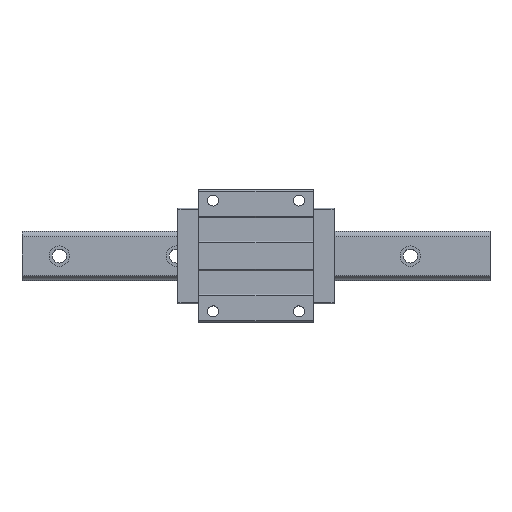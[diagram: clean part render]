
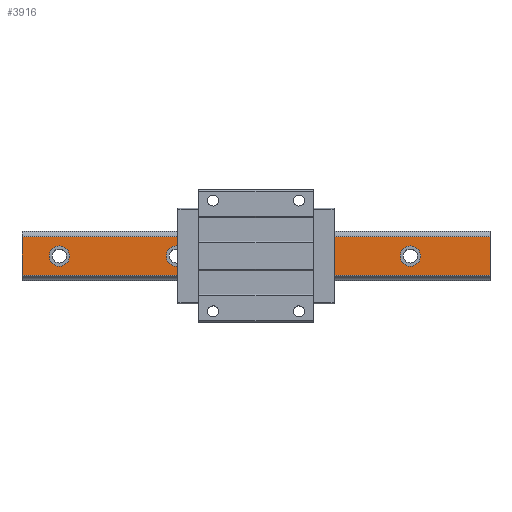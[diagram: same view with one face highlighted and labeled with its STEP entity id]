
A CAD part, top view. The second image highlights one B-rep face of the part: STEP entity #3916.
In plain terms, the highlighted planar face has unit normal (0, 0, 1).
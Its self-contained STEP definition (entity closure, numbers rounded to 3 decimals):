
#88 = CARTESIAN_POINT ( 'NONE',  ( 300., -24.864, 53. ) ) ;
#101 = CARTESIAN_POINT ( 'NONE',  ( -265., 0., 53. ) ) ;
#110 = CIRCLE ( 'NONE', #233, 13. ) ;
#118 = VERTEX_POINT ( 'NONE', #1973 ) ;
#221 = ORIENTED_EDGE ( 'NONE', *, *, #7140, .F. ) ;
#233 = AXIS2_PLACEMENT_3D ( 'NONE', #4876, #3096, #2549 ) ;
#301 = CARTESIAN_POINT ( 'NONE',  ( 198., 0., 53. ) ) ;
#358 = DIRECTION ( 'NONE',  ( 1., 0., 0. ) ) ;
#406 = CARTESIAN_POINT ( 'NONE',  ( -300., -24.864, 53. ) ) ;
#424 = VERTEX_POINT ( 'NONE', #5910 ) ;
#647 = FACE_BOUND ( 'NONE', #1409, .T. ) ;
#651 = CARTESIAN_POINT ( 'NONE',  ( 300., -24.864, 53. ) ) ;
#899 = EDGE_CURVE ( 'NONE', #424, #1170, #3018, .T. ) ;
#990 = DIRECTION ( 'NONE',  ( 1., 0., 0. ) ) ;
#1010 = EDGE_CURVE ( 'NONE', #7152, #3436, #1140, .T. ) ;
#1057 = DIRECTION ( 'NONE',  ( 1., 0., 0. ) ) ;
#1140 = CIRCLE ( 'NONE', #4445, 13. ) ;
#1170 = VERTEX_POINT ( 'NONE', #5200 ) ;
#1172 = PLANE ( 'NONE',  #3901 ) ;
#1217 = DIRECTION ( 'NONE',  ( 0., 0., 1. ) ) ;
#1246 = FACE_BOUND ( 'NONE', #6145, .T. ) ;
#1278 = VECTOR ( 'NONE', #5402, 1000. ) ;
#1361 = ORIENTED_EDGE ( 'NONE', *, *, #4395, .T. ) ;
#1409 = EDGE_LOOP ( 'NONE', ( #6826, #2504 ) ) ;
#1435 = DIRECTION ( 'NONE',  ( 1., 0., 0. ) ) ;
#1472 = DIRECTION ( 'NONE',  ( 0., 0., 1. ) ) ;
#1549 = CARTESIAN_POINT ( 'NONE',  ( -102., 0., 53. ) ) ;
#1625 = DIRECTION ( 'NONE',  ( 0., 0., 1. ) ) ;
#1647 = CARTESIAN_POINT ( 'NONE',  ( 300., 24.864, 53. ) ) ;
#1700 = ORIENTED_EDGE ( 'NONE', *, *, #6955, .F. ) ;
#1831 = ORIENTED_EDGE ( 'NONE', *, *, #899, .F. ) ;
#1973 = CARTESIAN_POINT ( 'NONE',  ( -300., 24.864, 53. ) ) ;
#2031 = CARTESIAN_POINT ( 'NONE',  ( -300., -24.864, 53. ) ) ;
#2070 = EDGE_CURVE ( 'NONE', #118, #6266, #7049, .T. ) ;
#2245 = DIRECTION ( 'NONE',  ( 0., 0., -1. ) ) ;
#2383 = CIRCLE ( 'NONE', #6497, 13. ) ;
#2476 = DIRECTION ( 'NONE',  ( 1., 0., 0. ) ) ;
#2504 = ORIENTED_EDGE ( 'NONE', *, *, #1010, .F. ) ;
#2549 = DIRECTION ( 'NONE',  ( 1., 0., 0. ) ) ;
#2550 = AXIS2_PLACEMENT_3D ( 'NONE', #3547, #5870, #2476 ) ;
#2607 = CARTESIAN_POINT ( 'NONE',  ( -115., 0., 53. ) ) ;
#2729 = ORIENTED_EDGE ( 'NONE', *, *, #4627, .F. ) ;
#2740 = VERTEX_POINT ( 'NONE', #3418 ) ;
#2754 = VECTOR ( 'NONE', #6943, 1000. ) ;
#2957 = AXIS2_PLACEMENT_3D ( 'NONE', #4312, #7190, #990 ) ;
#3018 = CIRCLE ( 'NONE', #2550, 13. ) ;
#3066 = CIRCLE ( 'NONE', #2957, 13. ) ;
#3070 = VECTOR ( 'NONE', #7265, 1000. ) ;
#3096 = DIRECTION ( 'NONE',  ( 0., 0., 1. ) ) ;
#3155 = CARTESIAN_POINT ( 'NONE',  ( 300., -24.864, 53. ) ) ;
#3299 = EDGE_CURVE ( 'NONE', #4394, #6560, #110, .T. ) ;
#3329 = CIRCLE ( 'NONE', #3920, 13. ) ;
#3418 = CARTESIAN_POINT ( 'NONE',  ( 211., 0., 53. ) ) ;
#3436 = VERTEX_POINT ( 'NONE', #6677 ) ;
#3489 = CARTESIAN_POINT ( 'NONE',  ( -239., 0., 53. ) ) ;
#3498 = EDGE_LOOP ( 'NONE', ( #6025, #5211 ) ) ;
#3524 = DIRECTION ( 'NONE',  ( 0., -1., 0. ) ) ;
#3547 = CARTESIAN_POINT ( 'NONE',  ( 48., 0., 53. ) ) ;
#3665 = CIRCLE ( 'NONE', #5672, 13. ) ;
#3724 = CARTESIAN_POINT ( 'NONE',  ( -102., 0., 53. ) ) ;
#3773 = DIRECTION ( 'NONE',  ( 0., 0., 1. ) ) ;
#3775 = EDGE_CURVE ( 'NONE', #2740, #6150, #3066, .T. ) ;
#3901 = AXIS2_PLACEMENT_3D ( 'NONE', #88, #2245, #3945 ) ;
#3916 = ADVANCED_FACE ( 'NONE', ( #5638, #647, #1246, #3981, #5191 ), #1172, .F. ) ;
#3920 = AXIS2_PLACEMENT_3D ( 'NONE', #4059, #1217, #5715 ) ;
#3945 = DIRECTION ( 'NONE',  ( 0., -1., 0. ) ) ;
#3981 = FACE_BOUND ( 'NONE', #6891, .T. ) ;
#4059 = CARTESIAN_POINT ( 'NONE',  ( 48., 0., 53. ) ) ;
#4138 = ORIENTED_EDGE ( 'NONE', *, *, #2070, .T. ) ;
#4242 = EDGE_CURVE ( 'NONE', #6560, #4394, #3665, .T. ) ;
#4312 = CARTESIAN_POINT ( 'NONE',  ( 198., 0., 53. ) ) ;
#4394 = VERTEX_POINT ( 'NONE', #3489 ) ;
#4395 = EDGE_CURVE ( 'NONE', #6727, #118, #5740, .T. ) ;
#4445 = AXIS2_PLACEMENT_3D ( 'NONE', #3724, #1625, #358 ) ;
#4566 = EDGE_CURVE ( 'NONE', #6727, #5858, #6325, .T. ) ;
#4627 = EDGE_CURVE ( 'NONE', #6150, #2740, #2383, .T. ) ;
#4673 = EDGE_LOOP ( 'NONE', ( #4138, #221, #5214, #1361 ) ) ;
#4859 = CIRCLE ( 'NONE', #6391, 13. ) ;
#4876 = CARTESIAN_POINT ( 'NONE',  ( -252., 0., 53. ) ) ;
#5191 = FACE_OUTER_BOUND ( 'NONE', #4673, .T. ) ;
#5200 = CARTESIAN_POINT ( 'NONE',  ( 61., 0., 53. ) ) ;
#5211 = ORIENTED_EDGE ( 'NONE', *, *, #4242, .F. ) ;
#5214 = ORIENTED_EDGE ( 'NONE', *, *, #4566, .F. ) ;
#5290 = ORIENTED_EDGE ( 'NONE', *, *, #3775, .F. ) ;
#5357 = DIRECTION ( 'NONE',  ( 1., 0., 0. ) ) ;
#5402 = DIRECTION ( 'NONE',  ( -1., 0., 0. ) ) ;
#5440 = CARTESIAN_POINT ( 'NONE',  ( -252., 0., 53. ) ) ;
#5638 = FACE_BOUND ( 'NONE', #3498, .T. ) ;
#5672 = AXIS2_PLACEMENT_3D ( 'NONE', #5440, #5956, #1057 ) ;
#5715 = DIRECTION ( 'NONE',  ( 1., 0., 0. ) ) ;
#5740 = LINE ( 'NONE', #1647, #3070 ) ;
#5858 = VERTEX_POINT ( 'NONE', #651 ) ;
#5870 = DIRECTION ( 'NONE',  ( 0., 0., 1. ) ) ;
#5910 = CARTESIAN_POINT ( 'NONE',  ( 35., 0., 53. ) ) ;
#5956 = DIRECTION ( 'NONE',  ( 0., 0., 1. ) ) ;
#5959 = LINE ( 'NONE', #3155, #1278 ) ;
#6025 = ORIENTED_EDGE ( 'NONE', *, *, #3299, .F. ) ;
#6145 = EDGE_LOOP ( 'NONE', ( #1700, #1831 ) ) ;
#6150 = VERTEX_POINT ( 'NONE', #6319 ) ;
#6266 = VERTEX_POINT ( 'NONE', #406 ) ;
#6319 = CARTESIAN_POINT ( 'NONE',  ( 185., 0., 53. ) ) ;
#6325 = LINE ( 'NONE', #6431, #6969 ) ;
#6391 = AXIS2_PLACEMENT_3D ( 'NONE', #1549, #1472, #1435 ) ;
#6431 = CARTESIAN_POINT ( 'NONE',  ( 300., -24.864, 53. ) ) ;
#6497 = AXIS2_PLACEMENT_3D ( 'NONE', #301, #3773, #5357 ) ;
#6560 = VERTEX_POINT ( 'NONE', #101 ) ;
#6677 = CARTESIAN_POINT ( 'NONE',  ( -89., 0., 53. ) ) ;
#6727 = VERTEX_POINT ( 'NONE', #7083 ) ;
#6774 = EDGE_CURVE ( 'NONE', #3436, #7152, #4859, .T. ) ;
#6826 = ORIENTED_EDGE ( 'NONE', *, *, #6774, .F. ) ;
#6891 = EDGE_LOOP ( 'NONE', ( #5290, #2729 ) ) ;
#6943 = DIRECTION ( 'NONE',  ( 0., -1., 0. ) ) ;
#6955 = EDGE_CURVE ( 'NONE', #1170, #424, #3329, .T. ) ;
#6969 = VECTOR ( 'NONE', #3524, 1000. ) ;
#7049 = LINE ( 'NONE', #2031, #2754 ) ;
#7083 = CARTESIAN_POINT ( 'NONE',  ( 300., 24.864, 53. ) ) ;
#7140 = EDGE_CURVE ( 'NONE', #5858, #6266, #5959, .T. ) ;
#7152 = VERTEX_POINT ( 'NONE', #2607 ) ;
#7190 = DIRECTION ( 'NONE',  ( 0., 0., 1. ) ) ;
#7265 = DIRECTION ( 'NONE',  ( -1., 0., 0. ) ) ;
